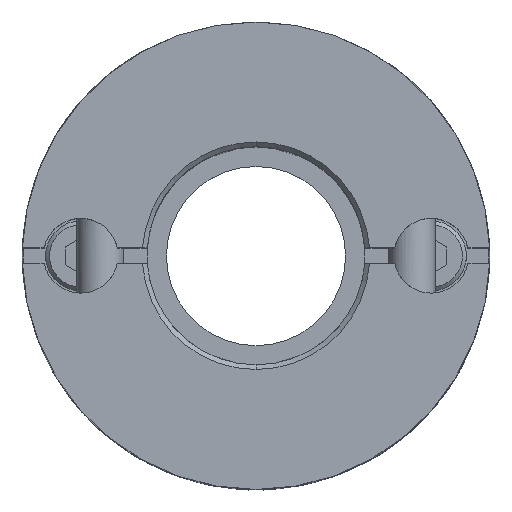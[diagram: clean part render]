
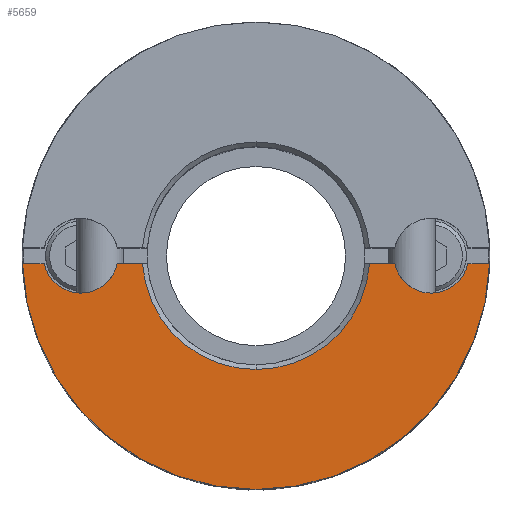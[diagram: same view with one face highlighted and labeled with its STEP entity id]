
A CAD part, top view. The second image highlights one B-rep face of the part: STEP entity #5659.
In plain terms, the highlighted planar face has unit normal (0, 0, 1).
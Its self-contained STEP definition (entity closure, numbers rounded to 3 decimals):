
#2176=CARTESIAN_POINT('',(0.,-15.0,11.8));
#2177=VERTEX_POINT('',#2176);
#2184=CARTESIAN_POINT('',(-14.992,-0.5,11.8));
#2185=VERTEX_POINT('',#2184);
#2186=CARTESIAN_POINT('',(0.0,0.0,11.8));
#2187=DIRECTION('',(0.0,0.0,-1.0));
#2188=DIRECTION('',(0.0,1.0,0.0));
#2189=AXIS2_PLACEMENT_3D('',#2186,#2187,#2188);
#2190=CIRCLE('',#2189,15.0);
#2191=EDGE_CURVE('',#2177,#2185,#2190,.T.);
#2582=CARTESIAN_POINT('',(0.,-7.3,11.8));
#2583=VERTEX_POINT('',#2582);
#2591=CARTESIAN_POINT('',(-7.283,-0.5,11.8));
#2592=VERTEX_POINT('',#2591);
#2606=CARTESIAN_POINT('',(0.0,0.0,11.8));
#2607=DIRECTION('',(0.0,0.0,1.0));
#2608=DIRECTION('',(0.0,-1.0,0.0));
#2609=AXIS2_PLACEMENT_3D('',#2606,#2607,#2608);
#2610=CIRCLE('',#2609,7.3);
#2611=EDGE_CURVE('',#2592,#2583,#2610,.T.);
#2984=CARTESIAN_POINT('',(-11.25,-2.4,11.8));
#2985=VERTEX_POINT('',#2984);
#2992=CARTESIAN_POINT('',(-8.903,-0.5,11.8));
#2993=VERTEX_POINT('',#2992);
#2994=CARTESIAN_POINT('',(-11.25,0.,11.8));
#2995=DIRECTION('',(0.0,0.0,-1.0));
#2996=DIRECTION('',(0.0,1.0,0.0));
#2997=AXIS2_PLACEMENT_3D('',#2994,#2995,#2996);
#2998=CIRCLE('',#2997,2.4);
#2999=EDGE_CURVE('',#2993,#2985,#2998,.T.);
#3059=CARTESIAN_POINT('',(-13.597,-0.5,11.8));
#3060=VERTEX_POINT('',#3059);
#3067=CARTESIAN_POINT('',(-11.25,0.,11.8));
#3068=DIRECTION('',(0.0,0.0,-1.0));
#3069=DIRECTION('',(0.0,1.0,0.0));
#3070=AXIS2_PLACEMENT_3D('',#3067,#3068,#3069);
#3071=CIRCLE('',#3070,2.4);
#3072=EDGE_CURVE('',#2985,#3060,#3071,.T.);
#3277=CARTESIAN_POINT('',(11.25,-2.4,11.8));
#3278=VERTEX_POINT('',#3277);
#3310=CARTESIAN_POINT('',(8.903,-0.5,11.8));
#3311=VERTEX_POINT('',#3310);
#3318=CARTESIAN_POINT('',(11.25,0.,11.8));
#3319=DIRECTION('',(0.0,0.0,-1.0));
#3320=DIRECTION('',(0.0,1.0,0.0));
#3321=AXIS2_PLACEMENT_3D('',#3318,#3319,#3320);
#3322=CIRCLE('',#3321,2.4);
#3323=EDGE_CURVE('',#3278,#3311,#3322,.T.);
#4401=CARTESIAN_POINT('',(13.597,-0.5,11.8));
#4402=VERTEX_POINT('',#4401);
#4403=CARTESIAN_POINT('',(11.25,0.,11.8));
#4404=DIRECTION('',(0.0,0.0,-1.0));
#4405=DIRECTION('',(0.0,1.0,0.0));
#4406=AXIS2_PLACEMENT_3D('',#4403,#4404,#4405);
#4407=CIRCLE('',#4406,2.4);
#4408=EDGE_CURVE('',#4402,#3278,#4407,.T.);
#4694=CARTESIAN_POINT('',(-7.283,-0.5,11.8));
#4695=DIRECTION('',(-1.0,0.0,0.0));
#4696=VECTOR('',#4695,1.62);
#4697=LINE('',#4694,#4696);
#4698=EDGE_CURVE('',#2592,#2993,#4697,.T.);
#4811=CARTESIAN_POINT('',(7.283,-0.5,11.8));
#4812=VERTEX_POINT('',#4811);
#4826=CARTESIAN_POINT('',(8.903,-0.5,11.8));
#4827=DIRECTION('',(-1.0,0.0,0.0));
#4828=VECTOR('',#4827,1.62);
#4829=LINE('',#4826,#4828);
#4830=EDGE_CURVE('',#3311,#4812,#4829,.T.);
#5406=CARTESIAN_POINT('',(14.992,-0.5,11.8));
#5407=VERTEX_POINT('',#5406);
#5408=CARTESIAN_POINT('',(14.992,-0.5,11.8));
#5409=DIRECTION('',(-1.0,0.0,0.0));
#5410=VECTOR('',#5409,1.394);
#5411=LINE('',#5408,#5410);
#5412=EDGE_CURVE('',#5407,#4402,#5411,.T.);
#5526=CARTESIAN_POINT('',(-13.597,-0.5,11.8));
#5527=DIRECTION('',(-1.0,0.0,0.0));
#5528=VECTOR('',#5527,1.394);
#5529=LINE('',#5526,#5528);
#5530=EDGE_CURVE('',#3060,#2185,#5529,.T.);
#5628=CARTESIAN_POINT('',(0.,1.364,11.8));
#5629=DIRECTION('',(0.0,0.0,1.0));
#5630=DIRECTION('',(0.0,1.0,0.0));
#5631=AXIS2_PLACEMENT_3D('',#5628,#5629,#5630);
#5632=PLANE('',#5631);
#5633=ORIENTED_EDGE('',*,*,#4408,.T.);
#5634=ORIENTED_EDGE('',*,*,#3323,.T.);
#5635=ORIENTED_EDGE('',*,*,#4830,.T.);
#5636=CARTESIAN_POINT('',(0.0,0.0,11.8));
#5637=DIRECTION('',(0.0,0.0,1.0));
#5638=DIRECTION('',(0.0,-1.0,0.0));
#5639=AXIS2_PLACEMENT_3D('',#5636,#5637,#5638);
#5640=CIRCLE('',#5639,7.3);
#5641=EDGE_CURVE('',#2583,#4812,#5640,.T.);
#5642=ORIENTED_EDGE('',*,*,#5641,.F.);
#5643=ORIENTED_EDGE('',*,*,#2611,.F.);
#5644=ORIENTED_EDGE('',*,*,#4698,.T.);
#5645=ORIENTED_EDGE('',*,*,#2999,.T.);
#5646=ORIENTED_EDGE('',*,*,#3072,.T.);
#5647=ORIENTED_EDGE('',*,*,#5530,.T.);
#5648=ORIENTED_EDGE('',*,*,#2191,.F.);
#5649=CARTESIAN_POINT('',(0.0,0.0,11.8));
#5650=DIRECTION('',(0.0,0.0,-1.0));
#5651=DIRECTION('',(0.0,1.0,0.0));
#5652=AXIS2_PLACEMENT_3D('',#5649,#5650,#5651);
#5653=CIRCLE('',#5652,15.0);
#5654=EDGE_CURVE('',#5407,#2177,#5653,.T.);
#5655=ORIENTED_EDGE('',*,*,#5654,.F.);
#5656=ORIENTED_EDGE('',*,*,#5412,.T.);
#5657=EDGE_LOOP('',(#5633,#5634,#5635,#5642,#5643,#5644,#5645,#5646,#5647,#5648,#5655,#5656));
#5658=FACE_OUTER_BOUND('',#5657,.T.);
#5659=ADVANCED_FACE('',(#5658),#5632,.T.);
